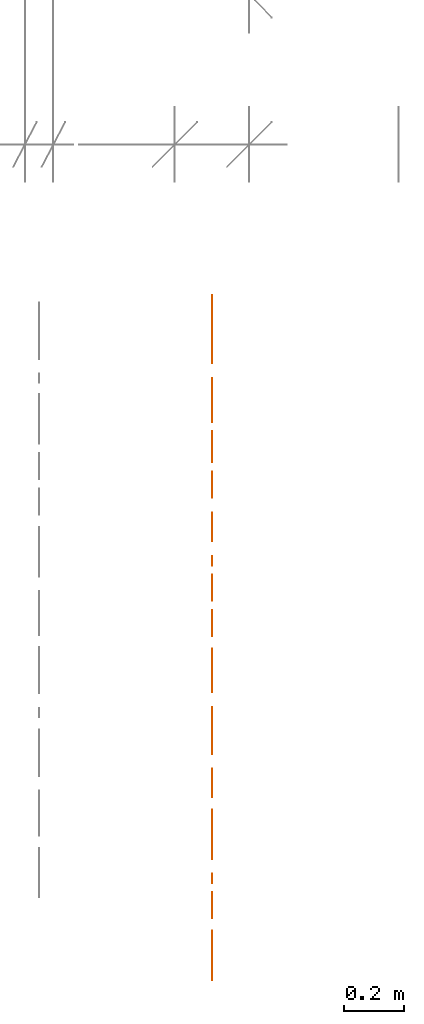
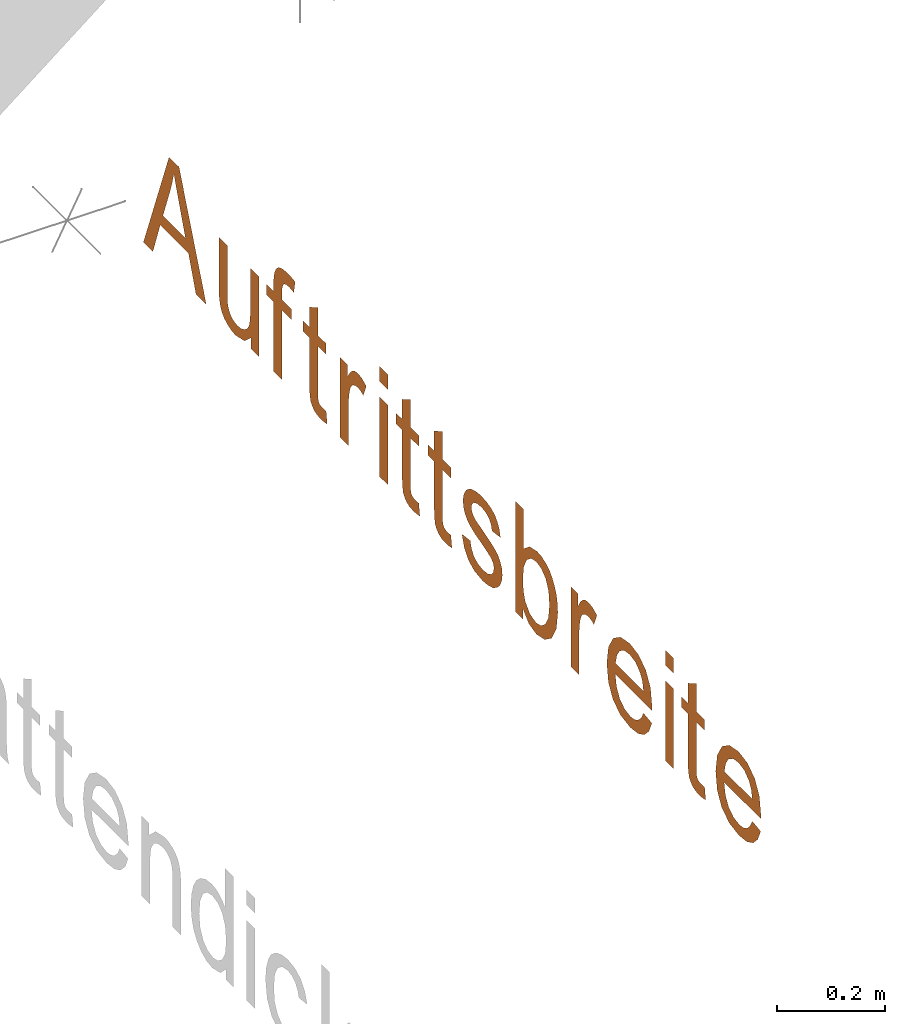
# One storey, part 4 of 5: 1 proxy, 1 element without a shape of its own.
"""IFC4 building model written with IfcOpenShell, lengths in metres."""

from ifc_helpers import new_model, entity, si_unit, converted_unit, derived_unit, frame, origin, origin_with_axes, place, context, subcontext, project, spatial, open_shell, surface_model, source, transform, mapped, element, aggregate, save


model = new_model("IFC4")

# Units and contexts
model_context = context("Model", 3, precision=1e-05, world=origin())
body_context = subcontext(model_context, "Body", "Model", "MODEL_VIEW")
ifc_project = project(units=[si_unit("LENGTHUNIT", "METRE"), si_unit("AREAUNIT", "SQUARE_METRE"), si_unit("VOLUMEUNIT", "CUBIC_METRE"), si_unit("MASSUNIT", "GRAM", prefix="KILO"), converted_unit("PLANEANGLEUNIT", "DEGREE", entity("IfcPlaneAngleMeasure", 0.0174532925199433), si_unit("PLANEANGLEUNIT", "RADIAN"), dimensions=[0, 0, 0, 0, 0, 0, 0]), derived_unit("THERMALTRANSMITTANCEUNIT", [(si_unit("POWERUNIT", "WATT"), 1), (si_unit("THERMODYNAMICTEMPERATUREUNIT", "KELVIN"), -1), (si_unit("LENGTHUNIT", "METRE"), -2)]), derived_unit("VOLUMETRICFLOWRATEUNIT", [(si_unit("LENGTHUNIT", "METRE"), 3), (converted_unit("TIMEUNIT", "hour", entity("IfcTimeMeasure", 3600.0), si_unit("TIMEUNIT", "SECOND"), dimensions=[0, 0, 1, 0, 0, 0, 0]), -1), (si_unit("LENGTHUNIT", "METRE"), -1)])], contexts=[model_context])

# Site, building, storey
site_placement = place(None, origin())
site = spatial("IfcSite", under=ifc_project, at=site_placement, Name="Liegenschaft", CompositionType="ELEMENT")
building_placement = place(site_placement, origin())
building = spatial("IfcBuilding", under=site, at=building_placement, Name="Gebäude", CompositionType="ELEMENT")
storey_placement = place(building_placement, origin())
storey = spatial("IfcBuildingStorey", under=building, at=storey_placement, Name="Geschoss 02", CompositionType="ELEMENT", Elevation=0.0)

# Assembly, proxy
assembly_placement = place(storey_placement, origin())
assembly = element("IfcElementAssembly", 1, at=assembly_placement, inside=storey, Name="SpatialDim_Group", PredefinedType="NOTDEFINED")
shared_shape = source(origin_with_axes(), body_context, "Body", "SurfaceModel", [
    surface_model("IfcShellBasedSurfaceModel", [(0.298675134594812, 2.292, 0.0), (0.298675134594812, 2.257, 0.0), (0.374675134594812, 2.23, 0.0), (0.374675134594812, 2.125, 0.0), (0.298675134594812, 2.097, 0.0), (0.298675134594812, 2.059, 0.0), (0.548675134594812, 2.16, 0.0), (0.548675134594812, 2.197, 0.0), (0.470675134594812, 2.161, 0.0), (0.401675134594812, 2.136, 0.0), (0.401675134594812, 2.22, 0.0), (0.474675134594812, 2.193, 0.0), (0.498675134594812, 2.18525, 0.0), (0.522675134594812, 2.179, 0.0), (0.499300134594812, 2.1715, 0.0)], [open_shell([[[0, 1, 2, 3, 4, 5, 6, 7], [8, 9, 10, 11, 12, 13, 14]]], orient=[[False, False]])]),
    surface_model("IfcShellBasedSurfaceModel", [(0.298675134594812, 1.892, 0.0), (0.298675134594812, 1.864, 0.0), (0.479675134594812, 1.864, 0.0), (0.479675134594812, 1.895, 0.0), (0.382675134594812, 1.895, 0.0), (0.361675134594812, 1.896375, 0.0), (0.346675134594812, 1.9, 0.0), (0.335675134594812, 1.907, 0.0), (0.327675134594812, 1.917, 0.0), (0.322300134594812, 1.929625, 0.0), (0.320675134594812, 1.943, 0.0), (0.322675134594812, 1.9565, 0.0), (0.327675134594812, 1.967, 0.0), (0.336050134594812, 1.9745, 0.0), (0.346675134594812, 1.979, 0.0), (0.358925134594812, 1.98075, 0.0), (0.378675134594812, 1.981, 0.0), (0.479675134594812, 1.981, 0.0), (0.479675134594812, 2.012, 0.0), (0.367675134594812, 2.012, 0.0), (0.350175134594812, 2.011375, 0.0), (0.338675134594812, 2.01, 0.0), (0.326550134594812, 2.00625, 0.0), (0.316675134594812, 2.001, 0.0), (0.307550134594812, 1.992, 0.0), (0.300675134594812, 1.98, 0.0), (0.296175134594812, 1.965, 0.0), (0.294675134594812, 1.95, 0.0), (0.302175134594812, 1.916875, 0.0), (0.324675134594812, 1.892, 0.0)], [open_shell([[[0, 1, 2, 3, 4, 5, 6, 7, 8, 9, 10, 11, 12, 13, 14, 15, 16, 17, 18, 19, 20, 21, 22, 23, 24, 25, 26, 27, 28, 29]]], orient=[[False]])]),
    surface_model("IfcShellBasedSurfaceModel", [(0.298675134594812, 1.809, 0.0), (0.298675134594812, 1.778, 0.0), (0.455675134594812, 1.778, 0.0), (0.455675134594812, 1.743, 0.0), (0.479675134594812, 1.743, 0.0), (0.479675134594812, 1.778, 0.0), (0.496675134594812, 1.778, 0.0), (0.510300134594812, 1.7765, 0.0), (0.518675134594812, 1.772, 0.0), (0.523175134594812, 1.763875, 0.0), (0.524675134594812, 1.752, 0.0), (0.524050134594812, 1.743, 0.0), (0.522675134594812, 1.734, 0.0), (0.549675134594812, 1.729, 0.0), (0.551925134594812, 1.744625, 0.0), (0.552675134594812, 1.758, 0.0), (0.550675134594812, 1.77625, 0.0), (0.545675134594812, 1.79, 0.0), (0.536425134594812, 1.79975, 0.0), (0.525675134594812, 1.805, 0.0), (0.514425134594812, 1.808125, 0.0), (0.498675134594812, 1.809, 0.0), (0.479675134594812, 1.809, 0.0), (0.479675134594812, 1.835, 0.0), (0.455675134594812, 1.835, 0.0), (0.455675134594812, 1.809, 0.0)], [open_shell([[[0, 1, 2, 3, 4, 5, 6, 7, 8, 9, 10, 11, 12, 13, 14, 15, 16, 17, 18, 19, 20, 21, 22, 23, 24, 25]]], orient=[[False]])]),
    surface_model("IfcShellBasedSurfaceModel", [(0.326675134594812, 1.614, 0.0), (0.325800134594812, 1.62175, 0.0), (0.325675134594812, 1.628, 0.0), (0.326300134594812, 1.63375, 0.0), (0.327675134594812, 1.638, 0.0), (0.330675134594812, 1.641625, 0.0), (0.333675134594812, 1.643, 0.0), (0.340300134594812, 1.64475, 0.0), (0.350675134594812, 1.645, 0.0), (0.455675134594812, 1.645, 0.0), (0.455675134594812, 1.614, 0.0), (0.479675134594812, 1.614, 0.0), (0.479675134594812, 1.645, 0.0), (0.542675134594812, 1.645, 0.0), (0.524675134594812, 1.676, 0.0), (0.479675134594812, 1.676, 0.0), (0.479675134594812, 1.699, 0.0), (0.455675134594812, 1.699, 0.0), (0.455675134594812, 1.676, 0.0), (0.351675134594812, 1.676, 0.0), (0.329175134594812, 1.67475, 0.0), (0.315675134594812, 1.672, 0.0), (0.307925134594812, 1.666625, 0.0), (0.301675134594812, 1.659, 0.0), (0.297675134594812, 1.647875, 0.0), (0.296675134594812, 1.633, 0.0), (0.297425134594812, 1.621875, 0.0), (0.299675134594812, 1.61, 0.0)], [open_shell([[[0, 1, 2, 3, 4, 5, 6, 7, 8, 9, 10, 11, 12, 13, 14, 15, 16, 17, 18, 19, 20, 21, 22, 23, 24, 25, 26, 27]]], orient=[[False]])]),
    surface_model("IfcShellBasedSurfaceModel", [(0.298675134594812, 1.562, 0.0), (0.298675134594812, 1.531, 0.0), (0.393675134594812, 1.531, 0.0), (0.412300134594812, 1.529625, 0.0), (0.428675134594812, 1.526, 0.0), (0.438675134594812, 1.521625, 0.0), (0.445675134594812, 1.515, 0.0), (0.450175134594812, 1.506, 0.0), (0.451675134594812, 1.497, 0.0), (0.450175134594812, 1.48575, 0.0), (0.445675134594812, 1.476, 0.0), (0.473675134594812, 1.465, 0.0), (0.481300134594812, 1.480875, 0.0), (0.483675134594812, 1.496, 0.0), (0.482175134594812, 1.50675, 0.0), (0.477675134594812, 1.516, 0.0), (0.468050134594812, 1.5255, 0.0), (0.451675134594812, 1.535, 0.0), (0.479675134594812, 1.535, 0.0), (0.479675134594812, 1.562, 0.0)], [open_shell([[[0, 1, 2, 3, 4, 5, 6, 7, 8, 9, 10, 11, 12, 13, 14, 15, 16, 17, 18, 19]]], orient=[[False]])]),
    surface_model("IfcShellBasedSurfaceModel", [(0.298675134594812, 1.416, 0.0), (0.298675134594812, 1.385, 0.0), (0.479675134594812, 1.385, 0.0), (0.479675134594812, 1.416, 0.0), (0.514675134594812, 1.416, 0.0), (0.514675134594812, 1.385, 0.0), (0.548675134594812, 1.385, 0.0), (0.548675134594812, 1.416, 0.0)], [open_shell([[[0, 1, 2, 3]], [[4, 5, 6, 7]]], orient=[[False], [False]])]),
    surface_model("IfcShellBasedSurfaceModel", [(0.326675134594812, 1.27, 0.0), (0.325800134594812, 1.27775, 0.0), (0.325675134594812, 1.284, 0.0), (0.326300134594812, 1.28975, 0.0), (0.327675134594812, 1.294, 0.0), (0.330675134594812, 1.297625, 0.0), (0.333675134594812, 1.299, 0.0), (0.340300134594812, 1.30075, 0.0), (0.350675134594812, 1.301, 0.0), (0.455675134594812, 1.301, 0.0), (0.455675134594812, 1.27, 0.0), (0.479675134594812, 1.27, 0.0), (0.479675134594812, 1.301, 0.0), (0.542675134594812, 1.301, 0.0), (0.524675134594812, 1.332, 0.0), (0.479675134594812, 1.332, 0.0), (0.479675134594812, 1.355, 0.0), (0.455675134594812, 1.355, 0.0), (0.455675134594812, 1.332, 0.0), (0.351675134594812, 1.332, 0.0), (0.329175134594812, 1.33075, 0.0), (0.315675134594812, 1.328, 0.0), (0.307925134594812, 1.322625, 0.0), (0.301675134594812, 1.315, 0.0), (0.297675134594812, 1.303875, 0.0), (0.296675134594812, 1.289, 0.0), (0.297425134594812, 1.277875, 0.0), (0.299675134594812, 1.266, 0.0)], [open_shell([[[0, 1, 2, 3, 4, 5, 6, 7, 8, 9, 10, 11, 12, 13, 14, 15, 16, 17, 18, 19, 20, 21, 22, 23, 24, 25, 26, 27]]], orient=[[False]])]),
    surface_model("IfcShellBasedSurfaceModel", [(0.326675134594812, 1.151, 0.0), (0.325800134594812, 1.15875, 0.0), (0.325675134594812, 1.165, 0.0), (0.326300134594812, 1.17075, 0.0), (0.327675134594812, 1.175, 0.0), (0.330675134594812, 1.178625, 0.0), (0.333675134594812, 1.18, 0.0), (0.340300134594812, 1.18175, 0.0), (0.350675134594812, 1.182, 0.0), (0.455675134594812, 1.182, 0.0), (0.455675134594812, 1.151, 0.0), (0.479675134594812, 1.151, 0.0), (0.479675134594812, 1.182, 0.0), (0.542675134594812, 1.182, 0.0), (0.524675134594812, 1.213, 0.0), (0.479675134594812, 1.213, 0.0), (0.479675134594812, 1.236, 0.0), (0.455675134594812, 1.236, 0.0), (0.455675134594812, 1.213, 0.0), (0.351675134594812, 1.213, 0.0), (0.329175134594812, 1.21175, 0.0), (0.315675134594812, 1.209, 0.0), (0.307925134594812, 1.203625, 0.0), (0.301675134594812, 1.196, 0.0), (0.297675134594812, 1.184875, 0.0), (0.296675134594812, 1.17, 0.0), (0.297425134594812, 1.158875, 0.0), (0.299675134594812, 1.147, 0.0)], [open_shell([[[0, 1, 2, 3, 4, 5, 6, 7, 8, 9, 10, 11, 12, 13, 14, 15, 16, 17, 18, 19, 20, 21, 22, 23, 24, 25, 26, 27]]], orient=[[False]])]),
    surface_model("IfcShellBasedSurfaceModel", [(0.353675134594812, 1.11, 0.0), (0.327925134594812, 1.101, 0.0), (0.309675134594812, 1.086, 0.0), (0.298425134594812, 1.063625, 0.0), (0.294675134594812, 1.033, 0.0), (0.296675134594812, 1.012875, 0.0), (0.301675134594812, 0.995, 0.0), (0.311425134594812, 0.97975, 0.0), (0.322675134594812, 0.969, 0.0), (0.337175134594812, 0.96225, 0.0), (0.351675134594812, 0.96, 0.0), (0.366550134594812, 0.962125, 0.0), (0.377675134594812, 0.968, 0.0), (0.387550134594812, 0.976875, 0.0), (0.393675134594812, 0.988, 0.0), (0.400425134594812, 1.006, 0.0), (0.408675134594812, 1.033, 0.0), (0.413800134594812, 1.051, 0.0), (0.416675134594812, 1.06, 0.0), (0.420300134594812, 1.067, 0.0), (0.424675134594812, 1.071, 0.0), (0.430175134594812, 1.074125, 0.0), (0.435675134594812, 1.075, 0.0), (0.444425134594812, 1.07275, 0.0), (0.451675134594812, 1.066, 0.0), (0.457050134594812, 1.054125, 0.0), (0.458675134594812, 1.037, 0.0), (0.456550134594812, 1.02125, 0.0), (0.450675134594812, 1.01, 0.0), (0.440800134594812, 1.00175, 0.0), (0.428675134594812, 0.998, 0.0), (0.432675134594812, 0.967, 0.0), (0.448925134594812, 0.971375, 0.0), (0.460675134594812, 0.978, 0.0), (0.470675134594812, 0.987625, 0.0), (0.477675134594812, 1.001, 0.0), (0.482175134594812, 1.01925, 0.0), (0.483675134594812, 1.039, 0.0), (0.482425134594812, 1.05325, 0.0), (0.479675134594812, 1.066, 0.0), (0.475925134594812, 1.077, 0.0), (0.470675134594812, 1.085, 0.0), (0.463300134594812, 1.094, 0.0), (0.453675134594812, 1.1, 0.0), (0.443050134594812, 1.1045, 0.0), (0.431675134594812, 1.106, 0.0), (0.418925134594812, 1.104, 0.0), (0.407675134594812, 1.099, 0.0), (0.397675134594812, 1.090125, 0.0), (0.390675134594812, 1.079, 0.0), (0.383175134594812, 1.06, 0.0), (0.375675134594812, 1.032, 0.0), (0.369050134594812, 1.012, 0.0), (0.364675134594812, 1.001, 0.0), (0.357425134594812, 0.993375, 0.0), (0.348675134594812, 0.991, 0.0), (0.337550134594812, 0.99375, 0.0), (0.328675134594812, 1.001, 0.0), (0.321925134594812, 1.013875, 0.0), (0.319675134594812, 1.032, 0.0), (0.322425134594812, 1.05075, 0.0), (0.329675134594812, 1.065, 0.0), (0.341800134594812, 1.07425, 0.0), (0.357675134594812, 1.079, 0.0)], [open_shell([[[0, 1, 2, 3, 4, 5, 6, 7, 8, 9, 10, 11, 12, 13, 14, 15, 16, 17, 18, 19, 20, 21, 22, 23, 24, 25, 26, 27, 28, 29, 30, 31, 32, 33, 34, 35, 36, 37, 38, 39, 40, 41, 42, 43, 44, 45, 46, 47, 48, 49, 50, 51, 52, 53, 54, 55, 56, 57, 58, 59, 60, 61, 62, 63]]], orient=[[False]])]),
    surface_model("IfcShellBasedSurfaceModel", [(0.298675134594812, 0.883, 0.0), (0.321675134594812, 0.883, 0.0), (0.301425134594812, 0.861375, 0.0), (0.294675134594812, 0.833, 0.0), (0.301175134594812, 0.802375, 0.0), (0.319675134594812, 0.777, 0.0), (0.351175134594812, 0.7595, 0.0), (0.391675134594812, 0.754, 0.0), (0.411300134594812, 0.755375, 0.0), (0.428675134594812, 0.759, 0.0), (0.444675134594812, 0.76625, 0.0), (0.457675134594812, 0.775, 0.0), (0.469050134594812, 0.7855, 0.0), (0.476675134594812, 0.799, 0.0), (0.482050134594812, 0.814625, 0.0), (0.483675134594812, 0.831, 0.0), (0.477675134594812, 0.858625, 0.0), (0.459675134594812, 0.881, 0.0), (0.548675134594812, 0.881, 0.0), (0.548675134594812, 0.912, 0.0), (0.298675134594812, 0.912, 0.0), (0.362675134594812, 0.88175, 0.0), (0.390675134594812, 0.884, 0.0), (0.419925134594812, 0.88025, 0.0), (0.441675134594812, 0.869, 0.0), (0.454675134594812, 0.852625, 0.0), (0.458675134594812, 0.834, 0.0), (0.454300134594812, 0.815, 0.0), (0.441675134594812, 0.799, 0.0), (0.419800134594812, 0.78825, 0.0), (0.389675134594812, 0.785, 0.0), (0.358800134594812, 0.78875, 0.0), (0.337675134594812, 0.8, 0.0), (0.324175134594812, 0.816375, 0.0), (0.319675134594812, 0.835, 0.0), (0.325675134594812, 0.857625, 0.0), (0.343675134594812, 0.875, 0.0)], [open_shell([[[0, 1, 2, 3, 4, 5, 6, 7, 8, 9, 10, 11, 12, 13, 14, 15, 16, 17, 18, 19, 20], [21, 22, 23, 24, 25, 26, 27, 28, 29, 30, 31, 32, 33, 34, 35, 36]]], orient=[[False, False]])]),
    surface_model("IfcShellBasedSurfaceModel", [(0.298675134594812, 0.706, 0.0), (0.298675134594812, 0.675, 0.0), (0.393675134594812, 0.675, 0.0), (0.412300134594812, 0.673625, 0.0), (0.428675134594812, 0.67, 0.0), (0.438675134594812, 0.665625, 0.0), (0.445675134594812, 0.659, 0.0), (0.450175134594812, 0.65, 0.0), (0.451675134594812, 0.641, 0.0), (0.450175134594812, 0.62975, 0.0), (0.445675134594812, 0.62, 0.0), (0.473675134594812, 0.609, 0.0), (0.481300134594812, 0.624875, 0.0), (0.483675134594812, 0.64, 0.0), (0.482175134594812, 0.65075, 0.0), (0.477675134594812, 0.66, 0.0), (0.468050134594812, 0.6695, 0.0), (0.451675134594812, 0.679, 0.0), (0.479675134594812, 0.679, 0.0), (0.479675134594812, 0.706, 0.0)], [open_shell([[[0, 1, 2, 3, 4, 5, 6, 7, 8, 9, 10, 11, 12, 13, 14, 15, 16, 17, 18, 19]]], orient=[[False]])]),
    surface_model("IfcShellBasedSurfaceModel", [(0.356675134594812, 0.436, 0.0), (0.340050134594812, 0.444875, 0.0), (0.328675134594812, 0.456, 0.0), (0.321925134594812, 0.469375, 0.0), (0.319675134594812, 0.485, 0.0), (0.323925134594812, 0.50675, 0.0), (0.335675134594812, 0.524, 0.0), (0.355300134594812, 0.535875, 0.0), (0.381675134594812, 0.541, 0.0), (0.381675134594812, 0.404, 0.0), (0.386425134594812, 0.404, 0.0), (0.389675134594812, 0.404, 0.0), (0.429425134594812, 0.409875, 0.0), (0.458675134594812, 0.427, 0.0), (0.477550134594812, 0.454, 0.0), (0.483675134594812, 0.487, 0.0), (0.477175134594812, 0.521625, 0.0), (0.458675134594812, 0.548, 0.0), (0.428050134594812, 0.566, 0.0), (0.387675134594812, 0.572, 0.0), (0.347925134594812, 0.566125, 0.0), (0.318675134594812, 0.549, 0.0), (0.300675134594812, 0.52075, 0.0), (0.294675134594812, 0.485, 0.0), (0.298425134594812, 0.455625, 0.0), (0.309675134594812, 0.433, 0.0), (0.328175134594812, 0.415625, 0.0), (0.352675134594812, 0.405, 0.0), (0.426300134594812, 0.43975, 0.0), (0.406675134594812, 0.436, 0.0), (0.406675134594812, 0.54, 0.0), (0.428300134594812, 0.534625, 0.0), (0.444675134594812, 0.524, 0.0), (0.455425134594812, 0.507, 0.0), (0.458675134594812, 0.487, 0.0), (0.454175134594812, 0.46525, 0.0), (0.440675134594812, 0.448, 0.0)], [open_shell([[[0, 1, 2, 3, 4, 5, 6, 7, 8, 9, 10, 11, 12, 13, 14, 15, 16, 17, 18, 19, 20, 21, 22, 23, 24, 25, 26, 27], [28, 29, 30, 31, 32, 33, 34, 35, 36]]], orient=[[False, False]])]),
    surface_model("IfcShellBasedSurfaceModel", [(0.298675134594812, 0.355, 0.0), (0.298675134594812, 0.324, 0.0), (0.479675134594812, 0.324, 0.0), (0.479675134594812, 0.355, 0.0), (0.514675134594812, 0.355, 0.0), (0.514675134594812, 0.324, 0.0), (0.548675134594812, 0.324, 0.0), (0.548675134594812, 0.355, 0.0)], [open_shell([[[0, 1, 2, 3]], [[4, 5, 6, 7]]], orient=[[False], [False]])]),
    surface_model("IfcShellBasedSurfaceModel", [(0.326675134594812, 0.209, 0.0), (0.325800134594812, 0.21675, 0.0), (0.325675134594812, 0.223, 0.0), (0.326300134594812, 0.22875, 0.0), (0.327675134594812, 0.233, 0.0), (0.330675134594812, 0.236625, 0.0), (0.333675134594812, 0.238, 0.0), (0.340300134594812, 0.23975, 0.0), (0.350675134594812, 0.24, 0.0), (0.455675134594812, 0.24, 0.0), (0.455675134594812, 0.209, 0.0), (0.479675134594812, 0.209, 0.0), (0.479675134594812, 0.24, 0.0), (0.542675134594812, 0.24, 0.0), (0.524675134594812, 0.271, 0.0), (0.479675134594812, 0.271, 0.0), (0.479675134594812, 0.294, 0.0), (0.455675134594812, 0.294, 0.0), (0.455675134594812, 0.271, 0.0), (0.351675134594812, 0.271, 0.0), (0.329175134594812, 0.26975, 0.0), (0.315675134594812, 0.267, 0.0), (0.307925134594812, 0.261625, 0.0), (0.301675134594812, 0.254, 0.0), (0.297675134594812, 0.242875, 0.0), (0.296675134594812, 0.228, 0.0), (0.297425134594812, 0.216875, 0.0), (0.299675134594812, 0.205, 0.0)], [open_shell([[[0, 1, 2, 3, 4, 5, 6, 7, 8, 9, 10, 11, 12, 13, 14, 15, 16, 17, 18, 19, 20, 21, 22, 23, 24, 25, 26, 27]]], orient=[[False]])]),
    surface_model("IfcShellBasedSurfaceModel", [(0.356675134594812, 0.0320000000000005, 0.0), (0.340050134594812, 0.0408750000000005, 0.0), (0.328675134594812, 0.0520000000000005, 0.0), (0.321925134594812, 0.0653750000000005, 0.0), (0.319675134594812, 0.0810000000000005, 0.0), (0.323925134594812, 0.10275, 0.0), (0.335675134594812, 0.12, 0.0), (0.355300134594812, 0.131875, 0.0), (0.381675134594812, 0.137, 0.0), (0.381675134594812, 0.0, 0.0), (0.386425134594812, 0.0, 0.0), (0.389675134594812, 0.0, 0.0), (0.429425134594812, 0.00587500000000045, 0.0), (0.458675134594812, 0.0230000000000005, 0.0), (0.477550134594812, 0.0500000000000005, 0.0), (0.483675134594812, 0.0830000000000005, 0.0), (0.477175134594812, 0.117625, 0.0), (0.458675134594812, 0.144, 0.0), (0.428050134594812, 0.162, 0.0), (0.387675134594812, 0.168, 0.0), (0.347925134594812, 0.162125, 0.0), (0.318675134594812, 0.145, 0.0), (0.300675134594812, 0.11675, 0.0), (0.294675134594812, 0.0810000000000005, 0.0), (0.298425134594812, 0.0516250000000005, 0.0), (0.309675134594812, 0.0290000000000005, 0.0), (0.328175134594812, 0.0116250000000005, 0.0), (0.352675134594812, 0.00100000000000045, 0.0), (0.426300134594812, 0.0357500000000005, 0.0), (0.406675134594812, 0.0320000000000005, 0.0), (0.406675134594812, 0.136, 0.0), (0.428300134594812, 0.130625, 0.0), (0.444675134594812, 0.12, 0.0), (0.455425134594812, 0.103, 0.0), (0.458675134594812, 0.0830000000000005, 0.0), (0.454175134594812, 0.0612500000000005, 0.0), (0.440675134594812, 0.0440000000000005, 0.0)], [open_shell([[[0, 1, 2, 3, 4, 5, 6, 7, 8, 9, 10, 11, 12, 13, 14, 15, 16, 17, 18, 19, 20, 21, 22, 23, 24, 25, 26, 27], [28, 29, 30, 31, 32, 33, 34, 35, 36]]], orient=[[False, False]])]),
])
proxy_placement = place(assembly_placement, frame((121.941730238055, -4.34732871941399, 1.6), z_axis=(-1.0, 0.0, 1.22464679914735e-16), x_axis=(1.22464679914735e-16, 0.0, 1.0)))
proxy = element("IfcBuildingElementProxy", 2, at=proxy_placement, Name="macro", context=body_context, shape_type="MappedRepresentation", body=[
    mapped(shared_shape, transform((0.0, 0.0, 0.0), x_axis=(1.0, 0.0, 0.0), y_axis=(0.0, 1.0, 0.0), z_axis=(0.0, 0.0, 1.0), scale=1.0)),
])
aggregate(assembly, [proxy])

save(model, "model.ifc")
